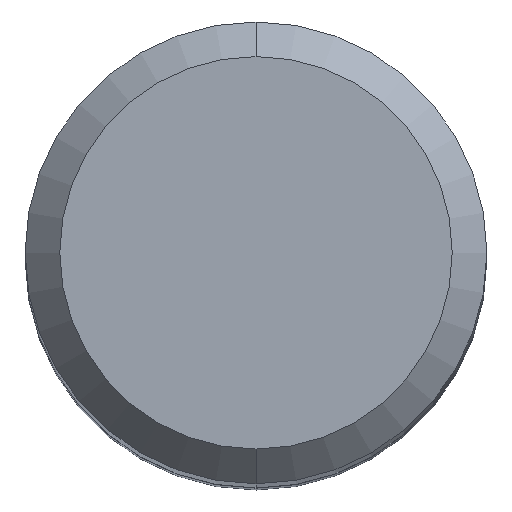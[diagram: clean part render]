
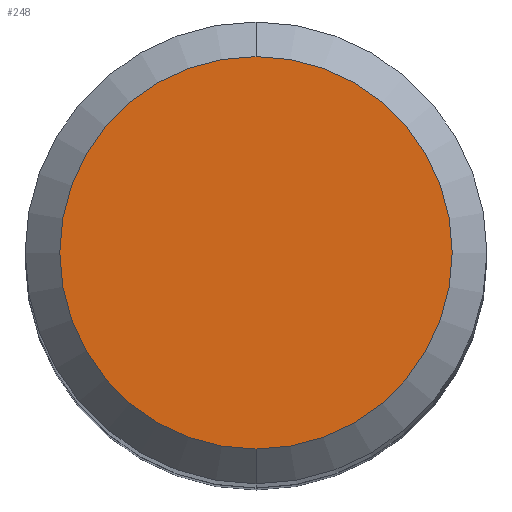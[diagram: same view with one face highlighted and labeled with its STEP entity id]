
A CAD part, top view. The second image highlights one B-rep face of the part: STEP entity #248.
In plain terms, the highlighted free-form (B-spline) face has degree [1, 1] with [2, 2] control points.
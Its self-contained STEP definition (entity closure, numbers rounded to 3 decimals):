
#31=CARTESIAN_POINT('',(0.,0.,0.));
#32=DIRECTION('',(0.,0.,1.));
#33=DIRECTION('',(0.,1.,0.));
#34=AXIS2_PLACEMENT_3D('',#31,#32,#33);
#36=CARTESIAN_POINT('',(0.,0.,0.));
#37=DIRECTION('',(0.,0.,-1.));
#38=DIRECTION('',(0.,1.,0.));
#39=AXIS2_PLACEMENT_3D('',#36,#37,#38);
#147=CARTESIAN_POINT('',(0.,3.4,0.));
#148=VERTEX_POINT('',#147);
#149=CARTESIAN_POINT('',(0.,-3.4,0.));
#150=VERTEX_POINT('',#149);
#239=CARTESIAN_POINT('',(3.536,3.536,0.));
#240=CARTESIAN_POINT('',(-3.536,3.536,0.));
#241=CARTESIAN_POINT('',(3.536,-3.536,0.));
#242=CARTESIAN_POINT('',(-3.536,-3.536,0.));
#243=B_SPLINE_SURFACE_WITH_KNOTS('',1,1,((#239,#240),(#241,#242)),.UNSPECIFIED.,
.F.,.F.,.F.,(2,2),(2,2),(-3.536,3.536),(-3.536,3.536),.UNSPECIFIED.);
#244=ORIENTED_EDGE('',*,*,#224,.F.);
#245=ORIENTED_EDGE('',*,*,#192,.T.);
#246=EDGE_LOOP('',(#244,#245));
#247=FACE_OUTER_BOUND('',#246,.F.);
#35=CIRCLE('',#34,3.4);
#40=CIRCLE('',#39,3.4);
#192=EDGE_CURVE('',#148,#150,#40,.T.);
#224=EDGE_CURVE('',#148,#150,#35,.T.);
#248=ADVANCED_FACE('',(#247),#243,.F.);
